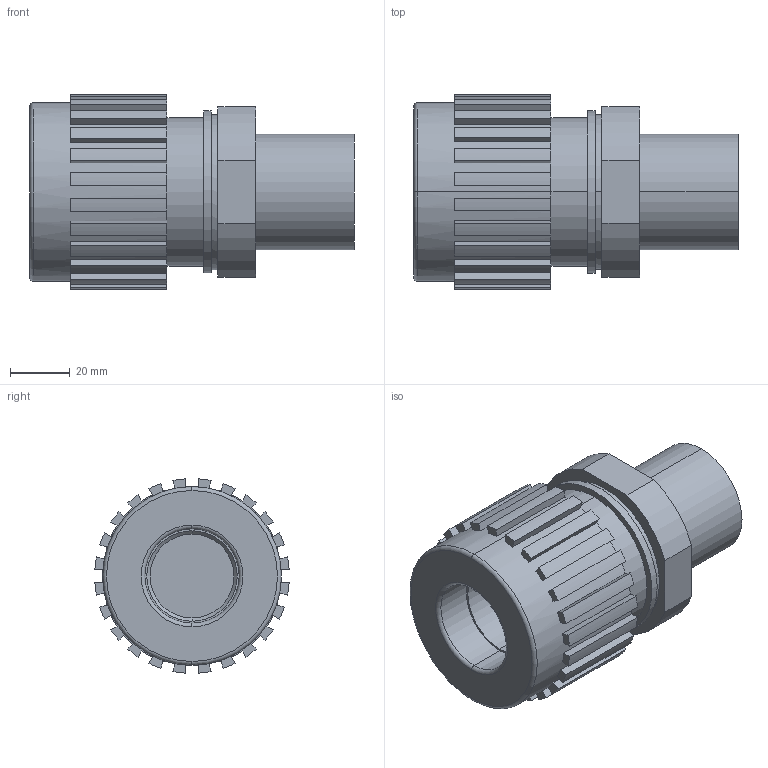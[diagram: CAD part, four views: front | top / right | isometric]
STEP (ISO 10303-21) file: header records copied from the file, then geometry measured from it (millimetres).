
FILE_DESCRIPTION (( 'STEP AP214' ), '1' );
FILE_NAME ('20-s-300.STEP', '2012-12-03T18:36:21', ( '' ), ( '' ), 'SwSTEP 2.0', 'SolidWorks 2012', '' );
FILE_SCHEMA (( 'AUTOMOTIVE_DESIGN' ));
Length unit declared in the file: inch
Products named in the file (1): 20-s-300
Bounding box: 109.01 x 65.25 x 65.25 mm (x, y, z)
Volume: 208778.7 mm3; surface area: 35952.1 mm2
Topology: 1 solids, 1 shells, 135 faces, 374 edges, 248 vertices
Faces by surface type: plane 88, cylinder 41, torus 4, cone 2
Entity records: 4712 total; most frequent: DIRECTION 790, CARTESIAN_POINT 758, ORIENTED_EDGE 748, EDGE_CURVE 374, AXIS2_PLACEMENT_3D 280, VERTEX_POINT 248, LINE 230, VECTOR 230
